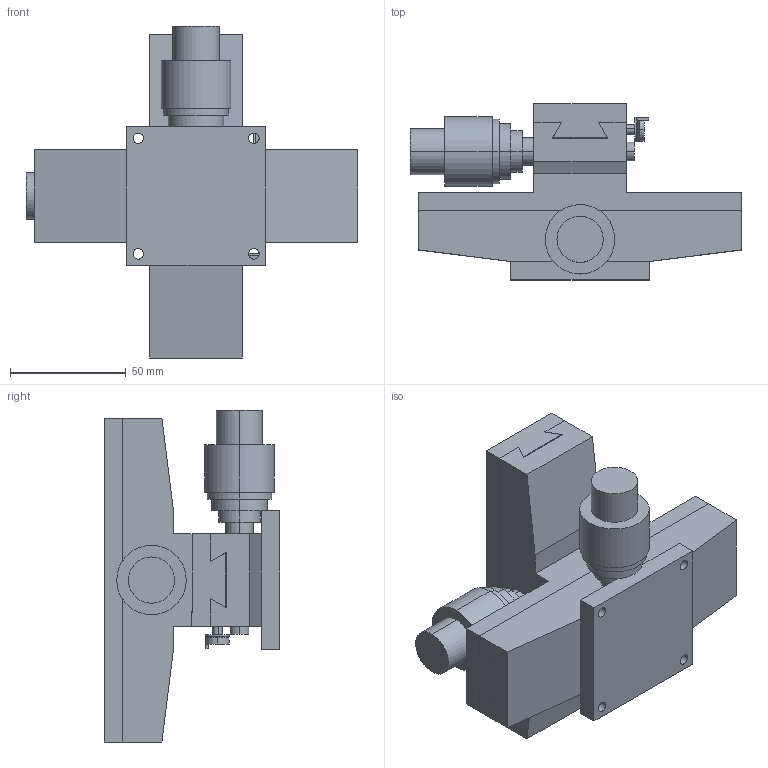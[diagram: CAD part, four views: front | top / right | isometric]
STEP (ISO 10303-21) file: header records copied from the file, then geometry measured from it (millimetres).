
FILE_DESCRIPTION (( 'STEP AP203' ), '1' );
FILE_NAME ('LD-112S.STEP', '2008-03-03T08:37:48', ( '' ), ( '' ), 'SwSTEP 2.0', 'SolidWorks 2007', '' );
FILE_SCHEMA (( 'CONFIG_CONTROL_DESIGN' ));
Length unit declared in the file: millimetre
Products named in the file (4): LD-112S; LD-112S-1; LD-112S-2; LD-112S-3
Assembly tree (3 placements, depth 2):
  LD-112S
    LD-112S-2
    LD-112S-3
    LD-112S-1
Bounding box: 143.5 x 76 x 143.5 mm (x, y, z)
Volume: 405334.9 mm3; surface area: 95412.2 mm2
Topology: 3 solids, 3 shells, 237 faces, 582 edges, 384 vertices
Faces by surface type: plane 123, cylinder 114
Entity records: 7562 total; most frequent: DIRECTION 1296, CARTESIAN_POINT 1221, ORIENTED_EDGE 1164, EDGE_CURVE 582, AXIS2_PLACEMENT_3D 475, VERTEX_POINT 384, VECTOR 346, LINE 346
